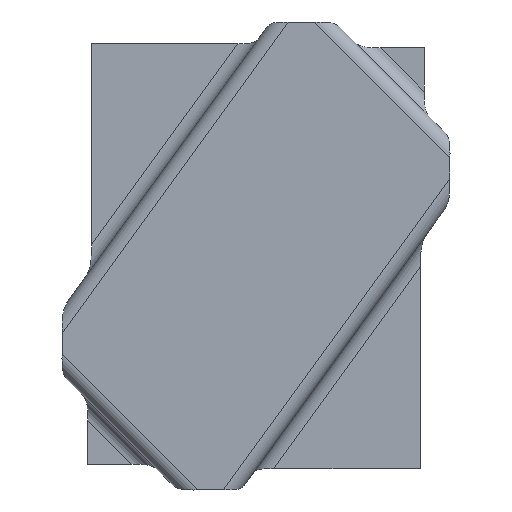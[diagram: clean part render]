
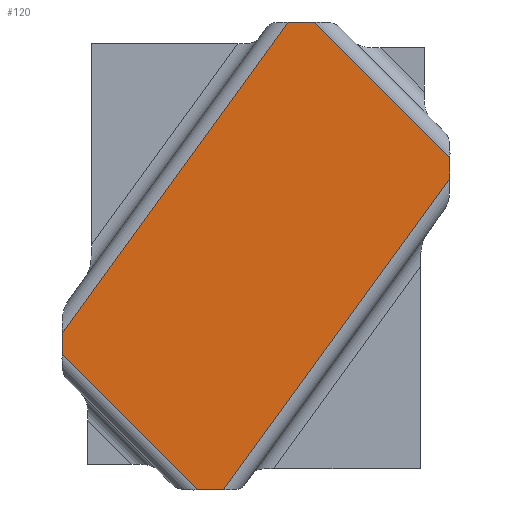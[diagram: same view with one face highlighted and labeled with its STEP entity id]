
A CAD part, top view. The second image highlights one B-rep face of the part: STEP entity #120.
In plain terms, the highlighted planar face has unit normal (0, 0, -1).
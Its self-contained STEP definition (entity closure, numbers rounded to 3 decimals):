
#53=CARTESIAN_POINT('Axis2P3D Location',(-52.021,37.803,64.806)) ;
#59=CARTESIAN_POINT('Control Point',(-52.021,77.027,64.806)) ;
#60=CARTESIAN_POINT('Control Point',(4.497,154.803,64.806)) ;
#61=CARTESIAN_POINT('Vertex',(-52.021,77.027,64.806)) ;
#63=CARTESIAN_POINT('Vertex',(4.497,154.803,64.806)) ;
#66=CARTESIAN_POINT('Line Origine',(-3.521,154.803,64.806)) ;
#70=CARTESIAN_POINT('Vertex',(11.153,154.803,64.806)) ;
#74=CARTESIAN_POINT('Control Point',(11.153,154.803,64.806)) ;
#75=CARTESIAN_POINT('Control Point',(44.979,120.977,64.806)) ;
#76=CARTESIAN_POINT('Vertex',(44.979,120.977,64.806)) ;
#79=CARTESIAN_POINT('Line Origine',(44.979,96.303,64.806)) ;
#83=CARTESIAN_POINT('Vertex',(44.979,115.731,64.806)) ;
#87=CARTESIAN_POINT('Control Point',(44.979,115.731,64.806)) ;
#88=CARTESIAN_POINT('Control Point',(-11.65,37.803,64.806)) ;
#89=CARTESIAN_POINT('Vertex',(-11.65,37.803,64.806)) ;
#92=CARTESIAN_POINT('Line Origine',(-3.521,37.803,64.806)) ;
#96=CARTESIAN_POINT('Vertex',(-18.195,37.803,64.806)) ;
#100=CARTESIAN_POINT('Control Point',(-52.021,71.629,64.806)) ;
#101=CARTESIAN_POINT('Control Point',(-18.195,37.803,64.806)) ;
#102=CARTESIAN_POINT('Vertex',(-52.021,71.629,64.806)) ;
#105=CARTESIAN_POINT('Line Origine',(-52.021,96.303,64.806)) ;
#54=DIRECTION('Axis2P3D Direction',(0.,0.,1.)) ;
#55=DIRECTION('Axis2P3D XDirection',(1.,0.,0.)) ;
#67=DIRECTION('Vector Direction',(1.,0.,0.)) ;
#80=DIRECTION('Vector Direction',(0.,1.,0.)) ;
#93=DIRECTION('Vector Direction',(1.,0.,0.)) ;
#106=DIRECTION('Vector Direction',(0.,1.,0.)) ;
#56=AXIS2_PLACEMENT_3D('Plane Axis2P3D',#53,#54,#55) ;
#111=ORIENTED_EDGE('',*,*,#65,.T.) ;
#112=ORIENTED_EDGE('',*,*,#72,.T.) ;
#113=ORIENTED_EDGE('',*,*,#78,.T.) ;
#114=ORIENTED_EDGE('',*,*,#85,.T.) ;
#115=ORIENTED_EDGE('',*,*,#91,.T.) ;
#116=ORIENTED_EDGE('',*,*,#98,.T.) ;
#117=ORIENTED_EDGE('',*,*,#104,.F.) ;
#118=ORIENTED_EDGE('',*,*,#109,.T.) ;
#68=VECTOR('Line Direction',#67,1.) ;
#81=VECTOR('Line Direction',#80,1.) ;
#94=VECTOR('Line Direction',#93,1.) ;
#107=VECTOR('Line Direction',#106,1.) ;
#120=ADVANCED_FACE('Offset.1',(#119),#57,.F.) ;
#58=B_SPLINE_CURVE_WITH_KNOTS('',1,(#59,#60),.UNSPECIFIED.,.F.,.U.,(2,2),(-48.071,48.071),.UNSPECIFIED.) ;
#73=B_SPLINE_CURVE_WITH_KNOTS('',1,(#74,#75),.UNSPECIFIED.,.F.,.U.,(2,2),(-23.919,23.919),.UNSPECIFIED.) ;
#86=B_SPLINE_CURVE_WITH_KNOTS('',1,(#87,#88),.UNSPECIFIED.,.F.,.U.,(2,2),(-48.166,48.166),.UNSPECIFIED.) ;
#99=B_SPLINE_CURVE_WITH_KNOTS('',1,(#100,#101),.UNSPECIFIED.,.F.,.U.,(2,2),(-23.919,23.919),.UNSPECIFIED.) ;
#65=EDGE_CURVE('',#62,#64,#58,.T.) ;
#72=EDGE_CURVE('',#64,#71,#69,.T.) ;
#78=EDGE_CURVE('',#71,#77,#73,.T.) ;
#85=EDGE_CURVE('',#77,#84,#82,.F.) ;
#91=EDGE_CURVE('',#84,#90,#86,.T.) ;
#98=EDGE_CURVE('',#90,#97,#95,.F.) ;
#104=EDGE_CURVE('',#103,#97,#99,.T.) ;
#109=EDGE_CURVE('',#103,#62,#108,.T.) ;
#110=EDGE_LOOP('',(#111,#112,#113,#114,#115,#116,#117,#118)) ;
#119=FACE_OUTER_BOUND('',#110,.T.) ;
#69=LINE('Line',#66,#68) ;
#82=LINE('Line',#79,#81) ;
#95=LINE('Line',#92,#94) ;
#108=LINE('Line',#105,#107) ;
#57=PLANE('',#56) ;
#62=VERTEX_POINT('',#61) ;
#64=VERTEX_POINT('',#63) ;
#71=VERTEX_POINT('',#70) ;
#77=VERTEX_POINT('',#76) ;
#84=VERTEX_POINT('',#83) ;
#90=VERTEX_POINT('',#89) ;
#97=VERTEX_POINT('',#96) ;
#103=VERTEX_POINT('',#102) ;
